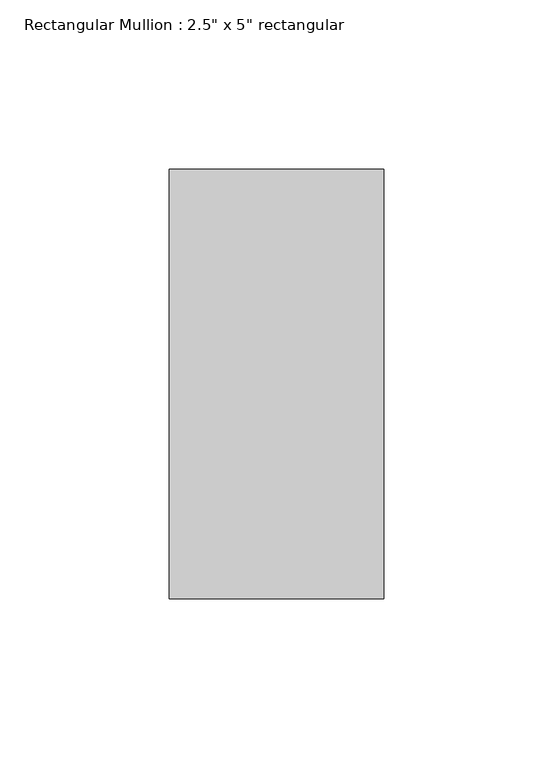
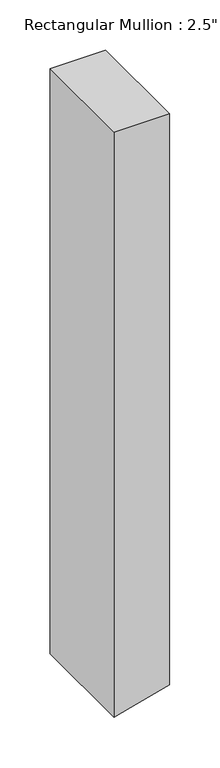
"""IFC4 building model written with IfcOpenShell, lengths in millimetres: member geometry."""

from ifc_helpers import new_model, si_unit, frame, origin, place, context, project, spatial, circle_curve, source, transform, mapped, element, save
from ifc_brep_helpers import plane_surface, cylinder_surface, advanced_brep


def member_6e56d3c6(model_context):
    return source(origin(), model_context, "Body", "AdvancedBrep", [
        advanced_brep(
        [(31.75, 63.5, 0.0), (-31.75, 63.5, 0.0), (-31.75, -63.5, 0.0), (31.75, -63.5, 0.0), (31.75, 63.5, -692.2038022), (-16.3871388, 63.5, -705.4144545), (-31.75, 63.5, -709.4823924), (-31.75, -63.5, -709.4823924), (-16.3871388, -63.5, -705.4144545), (31.75, -63.5, -692.2038022)],
        [
            (0, 1),
            (1, 2),
            (2, 3),
            (3, 0),
            (0, 4),
            (4, 5, circle_curve(frame((-960.5691072, 63.5, 2829.3140133), z_axis=(0.0, 1.0, 0.0), x_axis=(0.4081956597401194, 0.0, -0.9128944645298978)), 3658.6588985)),
            (5, 6, circle_curve(frame((-960.5691072, 63.5, 2829.3140133), z_axis=(0.0, 1.0, 0.0), x_axis=(0.2580677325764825, 0.0, -0.9661268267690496)), 3658.6588985)),
            (6, 1),
            (6, 7),
            (7, 2),
            (7, 8, circle_curve(frame((-960.5691072, -63.5, 2829.3140133), z_axis=(0.0, -1.0, 0.0), x_axis=(0.2580677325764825, 0.0, -0.9661268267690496)), 3658.6588985)),
            (8, 9, circle_curve(frame((-960.5691072, -63.5, 2829.3140133), z_axis=(0.0, -1.0, 0.0), x_axis=(0.4081956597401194, 0.0, -0.9128944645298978)), 3658.6588985)),
            (9, 3),
            (9, 4),
            (8, 5),
        ],
        [
            plane_surface(frame((0.0, -70.9951583, 0.0), z_axis=(0.0, 0.0, 1.0), x_axis=(-1.0, 0.0, 0.0))),
            plane_surface(frame((31.75, 63.5, 0.0), z_axis=(0.0, 1.0, 0.0), x_axis=(0.0, 0.0, -1.0))),
            plane_surface(frame((-31.75, 63.5, 0.0), z_axis=(-1.0, 0.0, 0.0), x_axis=(0.0, 0.0, -1.0))),
            plane_surface(frame((-31.75, -63.5, 0.0), z_axis=(0.0, -1.0, 0.0), x_axis=(0.0, 0.0, -1.0))),
            plane_surface(frame((31.75, -63.5, 0.0), z_axis=(1.0, 0.0, 0.0), x_axis=(0.0, 0.0, -1.0))),
            cylinder_surface(frame((-960.5691072, 0.0, 2829.3140133), z_axis=(0.0, 1.0, 0.0), x_axis=(0.4081956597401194, 0.0, -0.9128944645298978)), 3658.6588985),
            cylinder_surface(frame((-960.5691072, 0.0, 2829.3140133), z_axis=(0.0, 1.0000000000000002, 0.0), x_axis=(0.2580677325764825, 0.0, -0.9661268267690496)), 3658.6588985),
        ],
        [
            (0, [[1, 2, 3, 4]]),
            (1, [[-1, 5, 6, 7, 8]]),
            (2, [[-2, -8, 9, 10]]),
            (3, [[-3, -10, 11, 12, 13]]),
            (4, [[-4, -13, 14, -5]]),
            (5, [[-14, -12, 15, -6]]),
            (6, [[-11, -9, -7, -15]]),
        ],
    ),
    ])


if __name__ == "__main__":
    model = new_model("IFC4")
    model_context = context("Model", 3, world=origin())
    ifc_project = project(units=[si_unit("LENGTHUNIT", "METRE", prefix="MILLI")], contexts=[model_context])
    site = spatial("IfcSite", under=ifc_project)
    building = spatial("IfcBuilding", under=site)
    placement = place(None, origin())
    member_shape = member_6e56d3c6(model_context)
    element("IfcMember", 1, ObjectType="Rectangular Mullion : 2.5\" x 5\" rectangular", at=placement, inside=building, context=model_context, shape_type="MappedRepresentation", body=[
        mapped(member_shape, transform((0.0, 0.0, 0.0), x_axis=(1.0, 0.0, 0.0), y_axis=(0.0, 1.0, 0.0), z_axis=(0.0, 0.0, 1.0))),
    ])
    save(model, "model.ifc")
